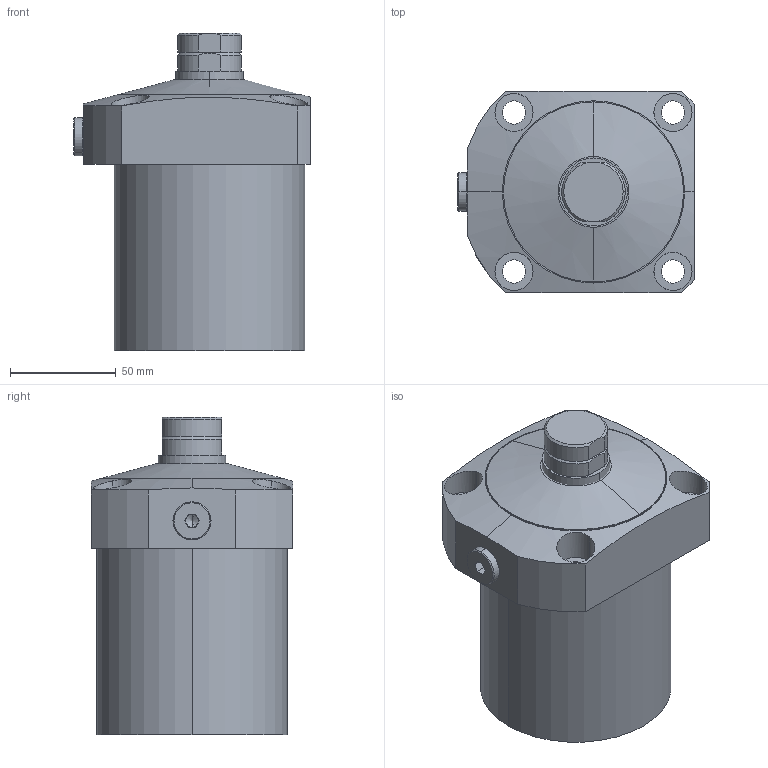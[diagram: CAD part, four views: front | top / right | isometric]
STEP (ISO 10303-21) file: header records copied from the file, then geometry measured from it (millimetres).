
FILE_DESCRIPTION (( 'STEP AP203' ), '1' );
FILE_NAME ('FW10-0906 work support.STEP', '2021-08-19T17:45:56', ( '' ), ( '' ), 'SwSTEP 2.0', 'SolidWorks 2017', '' );
FILE_SCHEMA (( 'CONFIG_CONTROL_DESIGN' ));
Length unit declared in the file: millimetre
Products named in the file (4): Plug_1; FW10-0906 work support; plunger_1; FW10-0906_1
Assembly tree (3 placements, depth 2):
  FW10-0906 work support
    FW10-0906_1
    plunger_1
    Plug_1
Bounding box: 111.5 x 95 x 150 mm (x, y, z)
Volume: 926046.5 mm3; surface area: 70636 mm2
Topology: 3 solids, 3 shells, 102 faces, 236 edges, 148 vertices
Faces by surface type: cylinder 42, plane 37, cone 21, bspline 2
Entity records: 3752 total; most frequent: CARTESIAN_POINT 996, DIRECTION 516, ORIENTED_EDGE 464, EDGE_CURVE 232, AXIS2_PLACEMENT_3D 206, VERTEX_POINT 148, EDGE_LOOP 124, LINE 104
